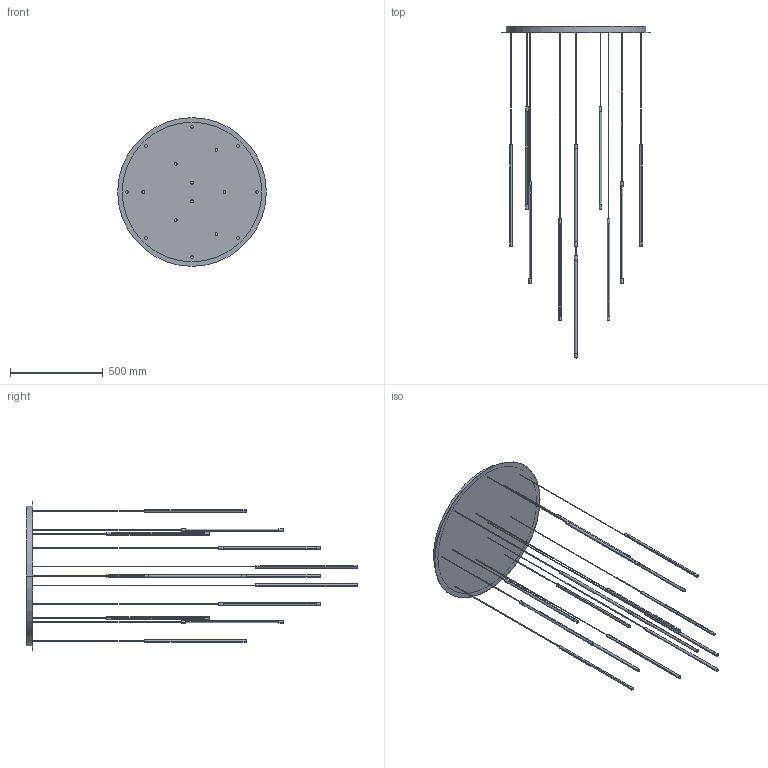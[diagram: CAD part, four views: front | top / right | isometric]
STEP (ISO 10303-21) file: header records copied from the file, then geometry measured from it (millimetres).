
FILE_DESCRIPTION (( 'STEP AP203' ), '1' );
FILE_NAME ('MP14932-xx.STEP', '2019-11-20T21:19:16', ( '' ), ( '' ), 'SwSTEP 2.0', 'SolidWorks 2018', '' );
FILE_SCHEMA (( 'CONFIG_CONTROL_DESIGN' ));
Length unit declared in the file: millimetre
Products named in the file (1): MP14932-xx
Bounding box: 800 x 1785 x 800 mm (x, y, z)
Volume: 17179249.6 mm3; surface area: 1621094 mm2
Topology: 1 solids, 1 shells, 192 faces, 447 edges, 290 vertices
Faces by surface type: plane 99, cylinder 93
Entity records: 5622 total; most frequent: DIRECTION 1059, CARTESIAN_POINT 930, ORIENTED_EDGE 894, EDGE_CURVE 447, AXIS2_PLACEMENT_3D 419, VERTEX_POINT 290, CIRCLE 226, EDGE_LOOP 225
